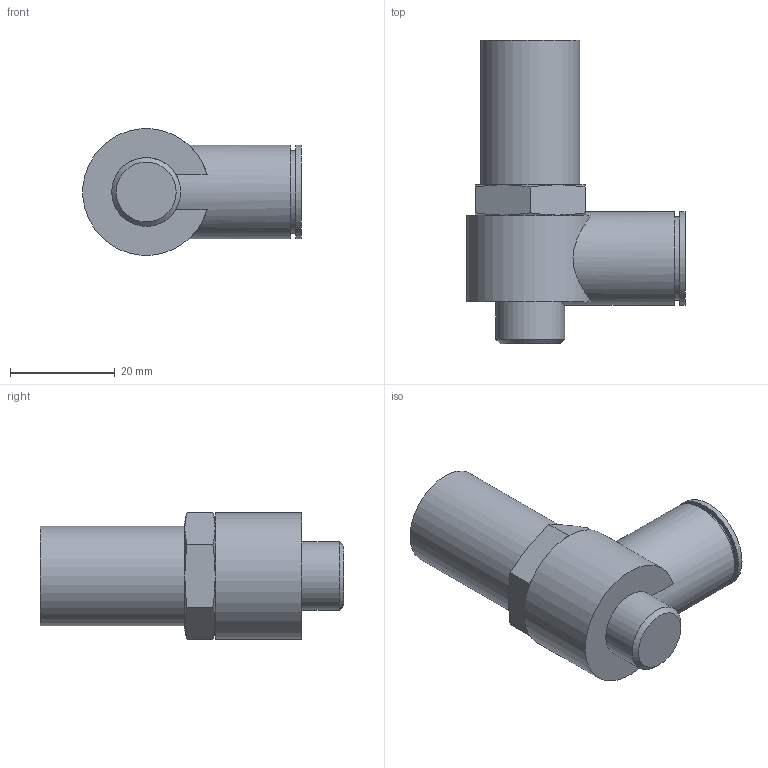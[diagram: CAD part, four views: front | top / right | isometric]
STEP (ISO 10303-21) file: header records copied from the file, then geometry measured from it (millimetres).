
FILE_DESCRIPTION(('STEP AP203'),'1');
FILE_NAME('BCVD-15-1002.stp','2025-09-30T05:00:51',(' '),(' '),'Spatial InterOp 3D',' ',' ');
FILE_SCHEMA(('CONFIG_CONTROL_DESIGN'));
Length unit declared in the file: millimetre
Products named in the file (1): 1
Bounding box: 41.68 x 58 x 24.25 mm (x, y, z)
Volume: 21707.5 mm3; surface area: 6443 mm2
Topology: 1 solids, 1 shells, 35 faces, 76 edges, 47 vertices
Faces by surface type: plane 15, cone 13, cylinder 7
Full cylindrical faces by diameter (mm): 10 x1, 13.157 x1, 15.9 x1, 17.9 x2, 19 x1
Entity records: 1072 total; most frequent: CARTESIAN_POINT 345, DIRECTION 136, ORIENTED_EDGE 132, EDGE_CURVE 66, AXIS2_PLACEMENT_3D 63, EDGE_LOOP 46, VERTEX_POINT 44, FACE_OUTER_BOUND 41
